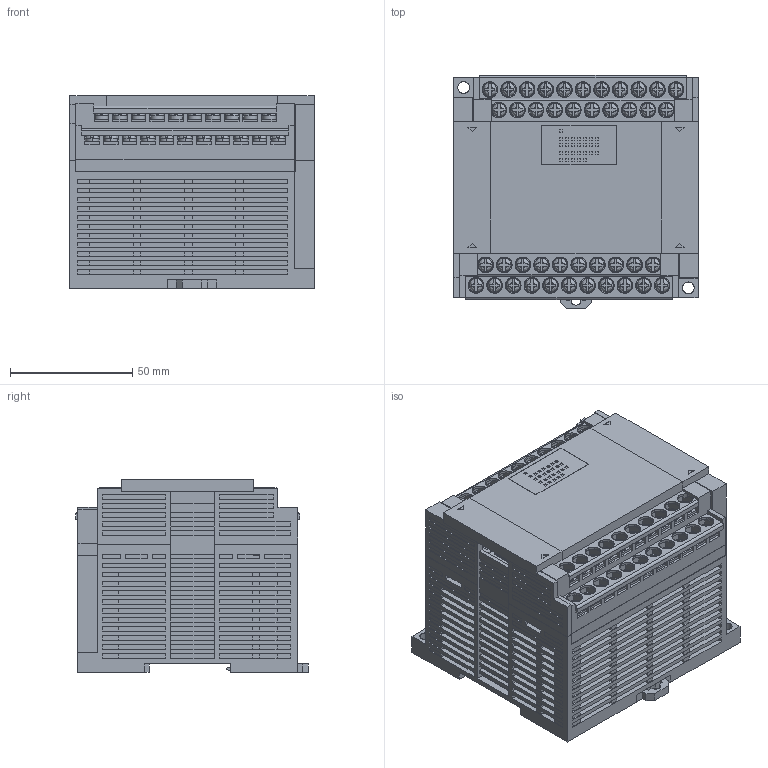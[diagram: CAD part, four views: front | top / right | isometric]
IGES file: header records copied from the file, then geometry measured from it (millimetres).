
Global section: preprocessor: SolidWorks 2008; organization: PanasonicElectricWorks; date: 090828.105020; units: millimetre
Bounding box: 100 x 95.4 x 79 mm (x, y, z)
Surface area: 88500.6 mm2 (no closed solid volume)
Topology: 0 solids, 0 shells, 3100 faces, 23518 edges, 23518 vertices
Faces by surface type: bspline 2889, revolution 211
